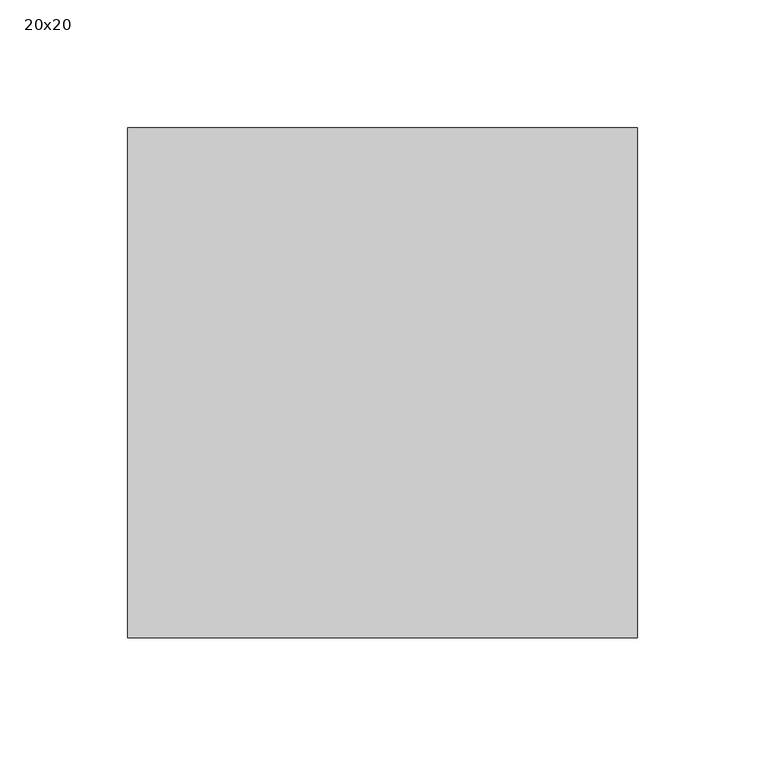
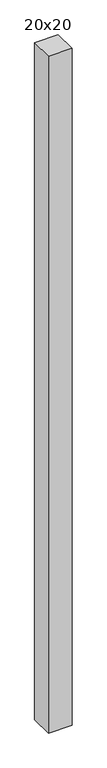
"""IFC4 building model written with IfcOpenShell, lengths in millimetres: column geometry, C&L poteau béton : 20x20."""

import ifcopenshell
import ifcopenshell.guid

model = None  # the IFC model being written
_history = None  # IfcOwnerHistory: only IFC2X3 demands one
_inside = {}  # id of a spatial element -> (the spatial element, [elements in it])
_under = {}  # id of a project, library or spatial element -> (it, [spatial elements below it])
_declared = {}  # id of a project -> (the project, [libraries it declares])
_typed = {}  # id of a type object -> (the type object, [elements of that type])
_made_of = {}  # id of a material, layer set ... -> (it, [elements and type objects made of it])


def new_model(schema):
    """Start an empty IFC model of exactly this schema.

    Asked for "IFC4X3", IfcOpenShell would pick the latest addendum, in which some entities
    have other attributes; the version numbers below select the first issue.
    IFC2X3 requires an IfcOwnerHistory on every rooted entity: one is made here for all.
    """
    global model, _history
    if schema == "IFC4X3":
        model = ifcopenshell.file(schema_version=(4, 3, 0, 0))
    else:
        model = ifcopenshell.file(schema=schema)
    _inside.clear()
    _under.clear()
    _declared.clear()
    _typed.clear()
    _made_of.clear()
    _history = None
    if model.schema == "IFC2X3":
        org = make("IfcOrganization", Name="unknown")
        user = make(
            "IfcPersonAndOrganization",
            ThePerson=make("IfcPerson", FamilyName="unknown"),
            TheOrganization=org,
        )
        app = make(
            "IfcApplication",
            ApplicationDeveloper=org,
            Version="unknown",
            ApplicationFullName="unknown",
            ApplicationIdentifier="unknown",
        )
        _history = make(
            "IfcOwnerHistory",
            OwningUser=user,
            OwningApplication=app,
            ChangeAction="ADDED",
            CreationDate=0,
        )
    return model


def make(cls, **values):
    """One entity of the class cls with the attributes given. An attribute that is None is left unset."""
    return model.create_entity(
        cls, **{name: value for name, value in values.items() if value is not None}
    )


def rooted(cls, **values):
    """An entity with a GlobalId (a new one), such as an element, a storey or a relation."""
    return make(cls, GlobalId=ifcopenshell.guid.new(), OwnerHistory=_history, **values)


def si_unit(unit_type, name, prefix=None):
    """IfcSIUnit, for example si_unit("LENGTHUNIT", "METRE", prefix="MILLI")."""
    return make("IfcSIUnit", UnitType=unit_type, Prefix=prefix, Name=name)


def assignment(units):
    """IfcUnitAssignment: the units of a project."""
    return None if units is None else make("IfcUnitAssignment", Units=units)


def point(xyz):
    """IfcCartesianPoint."""
    return None if xyz is None else make("IfcCartesianPoint", Coordinates=xyz)


def direction(xyz):
    """IfcDirection."""
    return None if xyz is None else make("IfcDirection", DirectionRatios=xyz)


def frame(location, z_axis=None, x_axis=None):
    """IfcAxis2Placement3D, a coordinate frame: its origin and axes. An axis left out is left unset."""
    return make(
        "IfcAxis2Placement3D",
        Location=point(location),
        Axis=direction(z_axis),
        RefDirection=direction(x_axis),
    )


def origin():
    """The frame at (0, 0, 0) with its axes left unset."""
    return frame((0.0, 0.0, 0.0))


def place(relative_to, where):
    """IfcLocalPlacement: puts the frame where relative to a parent placement (None: the world)."""
    return make(
        "IfcLocalPlacement", PlacementRelTo=relative_to, RelativePlacement=where
    )


def context(
    kind, dimensions, precision=None, world=None, true_north=None, identifier=None
):
    """IfcGeometricRepresentationContext, for example the 3D "Model" context."""
    return make(
        "IfcGeometricRepresentationContext",
        ContextIdentifier=identifier,
        ContextType=kind,
        CoordinateSpaceDimension=dimensions,
        Precision=precision,
        WorldCoordinateSystem=world,
        TrueNorth=true_north,
    )


def project(units=None, contexts=None):
    """IfcProject with its units and contexts."""
    return rooted(
        "IfcProject",
        Name="project",
        RepresentationContexts=contexts,
        UnitsInContext=assignment(units),
    )


def spatial(cls, under=None, at=None, **own):
    """A site, building, storey or space (cls), placed at a placement, below another one or the project."""
    s = rooted(cls, ObjectPlacement=at, **own)
    if under is not None:
        _under.setdefault(under.id(), (under, []))[1].append(s)
    return s


def polyline(points):
    """IfcPolyline through the points."""
    return make("IfcPolyline", Points=[point(p) for p in points])


def outline(outer, holes=None, kind="AREA"):
    """IfcArbitraryClosedProfileDef: a profile drawn as a closed curve; with holes, ...WithVoids."""
    if holes is None:
        return make("IfcArbitraryClosedProfileDef", ProfileType=kind, OuterCurve=outer)
    return make(
        "IfcArbitraryProfileDefWithVoids",
        ProfileType=kind,
        OuterCurve=outer,
        InnerCurves=holes,
    )


def extrude(swept, where, along, depth):
    """IfcExtrudedAreaSolid: the profile swept, set in the frame where, extruded along a direction by depth."""
    return make(
        "IfcExtrudedAreaSolid",
        SweptArea=swept,
        Position=where,
        ExtrudedDirection=direction(along),
        Depth=depth,
    )


def shape(context_of_items, identifier, shape_type, items):
    """IfcShapeRepresentation: the items that make up one representation, for example the "Body"."""
    return make(
        "IfcShapeRepresentation",
        ContextOfItems=context_of_items,
        RepresentationIdentifier=identifier,
        RepresentationType=shape_type,
        Items=items,
    )


def source(mapping_origin, context_of_items, identifier, shape_type, items):
    """IfcRepresentationMap: a shape defined once, which mapped items show again and again."""
    return make(
        "IfcRepresentationMap",
        MappingOrigin=mapping_origin,
        MappedRepresentation=shape(context_of_items, identifier, shape_type, items),
    )


def transform(
    local_origin,
    x_axis=None,
    y_axis=None,
    z_axis=None,
    scale=None,
    scale2=None,
    scale3=None,
    uniform=True,
):
    """IfcCartesianTransformationOperator3D, or its non-uniform kind. x_axis, y_axis, z_axis: its Axis1, 2, 3."""
    if uniform:
        return make(
            "IfcCartesianTransformationOperator3D",
            Axis1=direction(x_axis),
            Axis2=direction(y_axis),
            LocalOrigin=point(local_origin),
            Scale=scale,
            Axis3=direction(z_axis),
        )
    return make(
        "IfcCartesianTransformationOperator3DnonUniform",
        Axis1=direction(x_axis),
        Axis2=direction(y_axis),
        LocalOrigin=point(local_origin),
        Scale=scale,
        Axis3=direction(z_axis),
        Scale2=scale2,
        Scale3=scale3,
    )


def mapped(mapping_source, mapping_target):
    """IfcMappedItem: shows the shape of a source again, moved by a transform."""
    return make(
        "IfcMappedItem", MappingSource=mapping_source, MappingTarget=mapping_target
    )


def made_of(thing, what):
    """Note that an element or type object is made of a material, layer set ...; save() writes the relation."""
    if what is not None:
        _made_of.setdefault(what.id(), (what, []))[1].append(thing)
    return thing


def element(
    cls,
    number,
    at=None,
    inside=None,
    cuts=None,
    type_object=None,
    material=None,
    context=None,
    identifier="Body",
    shape_type=None,
    held_by="IfcProductDefinitionShape",
    body=None,
    shapes=None,
    **own,
):
    """One element of the class cls, such as IfcWall. Its Tag is "e" and its number.

    at: its placement. inside: the storey or other place that contains it. cuts: it is an
    opening in that element (IfcRelVoidsElement). A single representation is given by context,
    identifier, shape_type and body (its items); several are given by shapes. held_by: the class
    of the entity that holds the representations. save() writes the other relations.
    """
    e = rooted(cls, Tag="e%d" % number, ObjectPlacement=at, **own)
    if body is not None:
        shapes = [shape(context, identifier, shape_type, body)]
    if shapes is not None:
        e.Representation = make(held_by, Representations=shapes)
    if inside is not None:
        _inside.setdefault(inside.id(), (inside, []))[1].append(e)
    if cuts is not None:
        rooted(
            "IfcRelVoidsElement", RelatingBuildingElement=cuts, RelatedOpeningElement=e
        )
    if type_object is not None:
        _typed.setdefault(type_object.id(), (type_object, []))[1].append(e)
    return made_of(e, material)


def aggregate(whole, parts):
    """IfcRelAggregates: a whole, such as a stair, and the parts it consists of."""
    return rooted("IfcRelAggregates", RelatingObject=whole, RelatedObjects=parts)


def save(model, path):
    """Write the relations noted so far, then the file.

    IfcRelAggregates (storeys below a building ...), IfcRelContainedInSpatialStructure (elements
    in a storey), IfcRelDefinesByType, IfcRelAssociatesMaterial and IfcRelDeclares: one each for
    every whole, place, type object, material and project.
    """
    for whole, parts in _under.values():
        aggregate(whole, parts)
    for where, things in _inside.values():
        rooted(
            "IfcRelContainedInSpatialStructure",
            RelatedElements=things,
            RelatingStructure=where,
        )
    for kind, things in _typed.values():
        rooted("IfcRelDefinesByType", RelatedObjects=things, RelatingType=kind)
    for what, things in _made_of.values():
        rooted("IfcRelAssociatesMaterial", RelatedObjects=things, RelatingMaterial=what)
    for by, libraries in _declared.values():
        rooted("IfcRelDeclares", RelatingContext=by, RelatedDefinitions=libraries)
    model.write(path)


def column_20x20_f4e0cdf3(model_context):
    return source(origin(), model_context, "Body", "SweptSolid", [
        extrude(outline(polyline([(100.0, -100.0), (-100.0, -100.0), (-100.0, 100.0), (100.0, 100.0), (100.0, -100.0)])), frame((0.0, 0.0, -80.0), z_axis=(0.0, 0.0, 1.0), x_axis=(1.0, 0.0, 0.0)), (0.0, 0.0, 1.0), 6070.0),
    ])


if __name__ == "__main__":
    model = new_model("IFC4")
    model_context = context("Model", 3, world=origin())
    ifc_project = project(units=[si_unit("LENGTHUNIT", "METRE", prefix="MILLI")], contexts=[model_context])
    site = spatial("IfcSite", under=ifc_project)
    building = spatial("IfcBuilding", under=site)
    placement = place(None, origin())
    column_20x20_shape = column_20x20_f4e0cdf3(model_context)
    element("IfcColumn", 1, ObjectType="C&L poteau béton : 20x20", at=placement, inside=building, context=model_context, shape_type="MappedRepresentation", body=[
        mapped(column_20x20_shape, transform((0.0, 0.0, 0.0), x_axis=(1.0, 0.0, 0.0), y_axis=(0.0, 1.0, 0.0), z_axis=(0.0, 0.0, 1.0))),
    ])
    save(model, "model.ifc")
